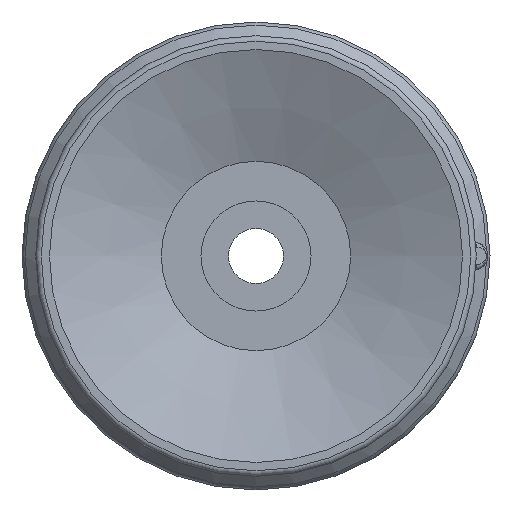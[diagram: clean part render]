
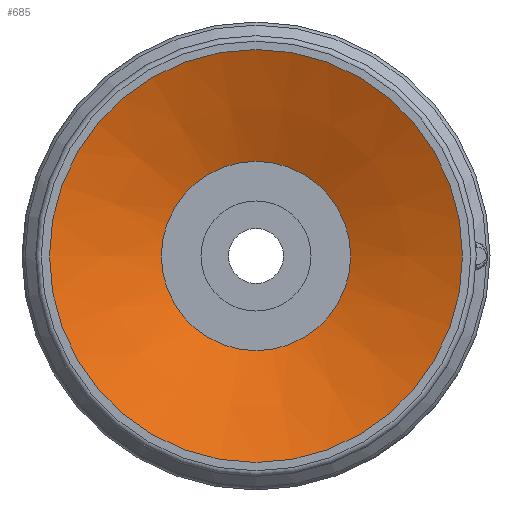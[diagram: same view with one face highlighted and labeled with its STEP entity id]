
A CAD part, front view. The second image highlights one B-rep face of the part: STEP entity #685.
In plain terms, the highlighted conical face has half-angle 67.5 degrees and reference radius 3.437 mm.
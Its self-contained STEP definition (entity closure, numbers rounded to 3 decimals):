
#685=ADVANCED_FACE('',(#977,#978),#979,.F.);
#977=FACE_BOUND('',#2377,.T.);
#978=FACE_OUTER_BOUND('',#2378,.T.);
#979=CONICAL_SURFACE('',#2379,3.437,1.178);
#2377=EDGE_LOOP('',(#3327));
#2378=EDGE_LOOP('',(#3328));
#2379=AXIS2_PLACEMENT_3D('',#3329,#3330,#3331);
#3327=ORIENTED_EDGE('',*,*,#3871,.F.);
#3328=ORIENTED_EDGE('',*,*,#3861,.T.);
#3329=CARTESIAN_POINT('',(0.0,0.0,1.683));
#3330=DIRECTION('',(0.0,0.,-1.0));
#3331=DIRECTION('',(0.0,1.0,0.));
#3861=EDGE_CURVE('',#4230,#4230,#4231,.T.);
#3871=EDGE_CURVE('',#4250,#4250,#4251,.T.);
#4230=VERTEX_POINT('',#5193);
#4231=CIRCLE('',#5194,7.5);
#4250=VERTEX_POINT('',#5213);
#4251=CIRCLE('',#5214,3.437);
#5193=CARTESIAN_POINT('',(-7.5,0.0,0.));
#5194=AXIS2_PLACEMENT_3D('',#5911,#5912,#5913);
#5213=CARTESIAN_POINT('',(-3.437,0.0,1.683));
#5214=AXIS2_PLACEMENT_3D('',#5941,#5942,#5943);
#5911=CARTESIAN_POINT('',(0.0,0.0,0.));
#5912=DIRECTION('',(0.0,0.,-1.0));
#5913=DIRECTION('',(0.0,1.0,0.));
#5941=CARTESIAN_POINT('',(0.0,0.0,1.683));
#5942=DIRECTION('',(0.0,0.,-1.0));
#5943=DIRECTION('',(0.0,1.0,0.));
